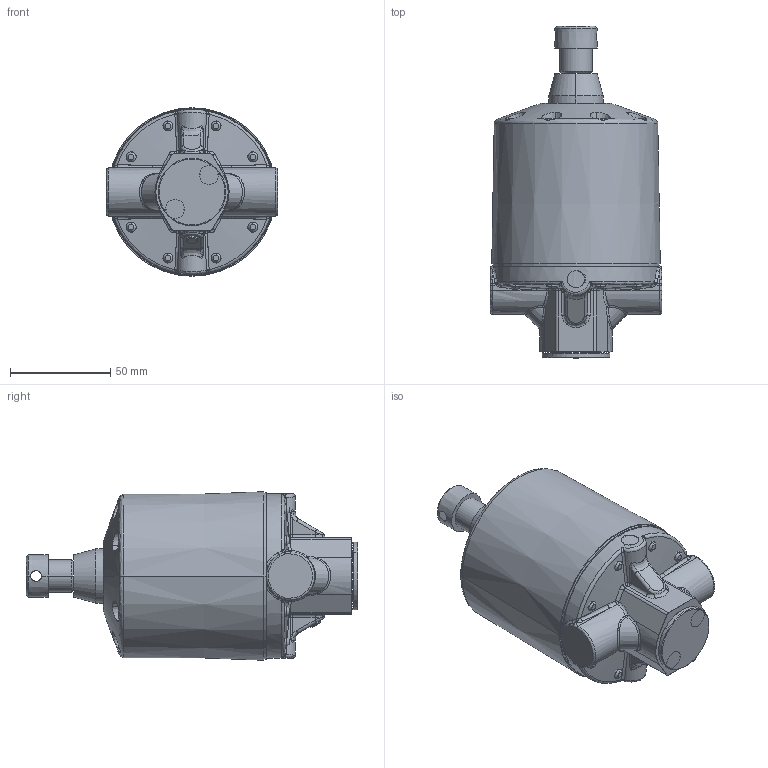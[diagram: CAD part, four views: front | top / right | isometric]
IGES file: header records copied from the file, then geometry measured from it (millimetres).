
Start section:  PTC IGES file: 234267-en-f.igs
Global section: file name: 234267-en-f.igs; native system: Creo Parametric by PTC Inc.; preprocessor: 2019030; author: qusrh3; organization: Unknown; date: 20191231.155855; units: inch
Bounding box: 85.3 x 165.3 x 83.91 mm (x, y, z)
Surface area: 71912.4 mm2 (no closed solid volume)
Topology: 0 solids, 0 shells, 363 faces, 1566 edges, 1566 vertices
Faces by surface type: revolution 208, bspline 155
